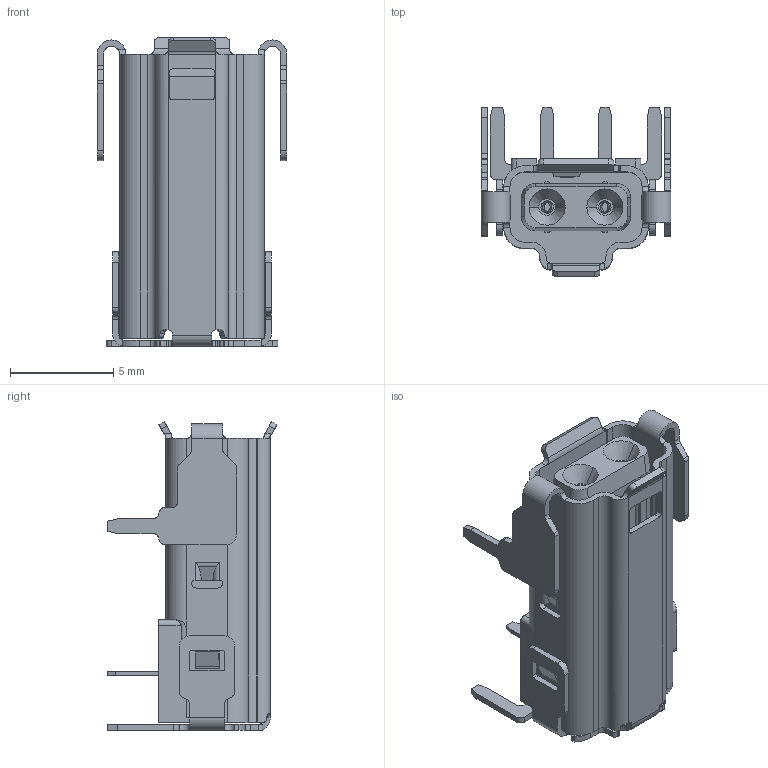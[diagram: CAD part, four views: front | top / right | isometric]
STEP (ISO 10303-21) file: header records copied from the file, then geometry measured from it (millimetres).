
FILE_DESCRIPTION((''),'2;1');
FILE_NAME('PRT0001','2024-01-12T09:46:44',('eng35'),(''),'CREO PARAMETRIC BY PTC INC, 2019010','CREO PARAMETRIC BY PTC INC, 2019010','');
FILE_SCHEMA(('CONFIG_CONTROL_DESIGN'));
Length unit declared in the file: millimetre
Products named in the file (1): PRT0001
Bounding box: 9.2 x 8.24 x 14.96 mm (x, y, z)
Volume: 314.9 mm3; surface area: 992 mm2
Topology: 1 solids, 1 shells, 759 faces, 2156 edges, 1396 vertices
Faces by surface type: plane 413, cylinder 260, bspline 70, cone 10, torus 6
Entity records: 27673 total; most frequent: CARTESIAN_POINT 8229, ORIENTED_EDGE 4312, DIRECTION 3742, EDGE_CURVE 2156, VERTEX_POINT 1396, VECTOR 1362, LINE 1362, AXIS2_PLACEMENT_3D 1190
